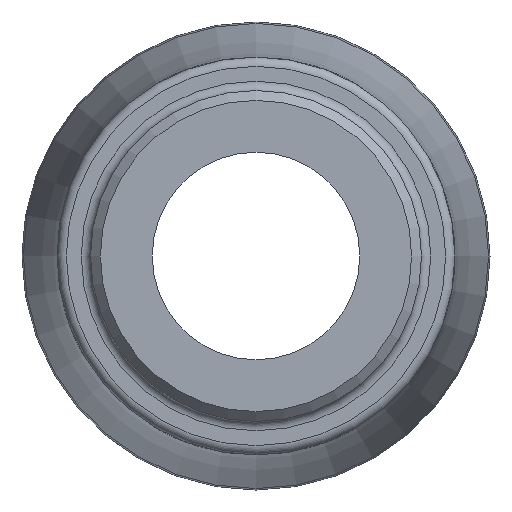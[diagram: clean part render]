
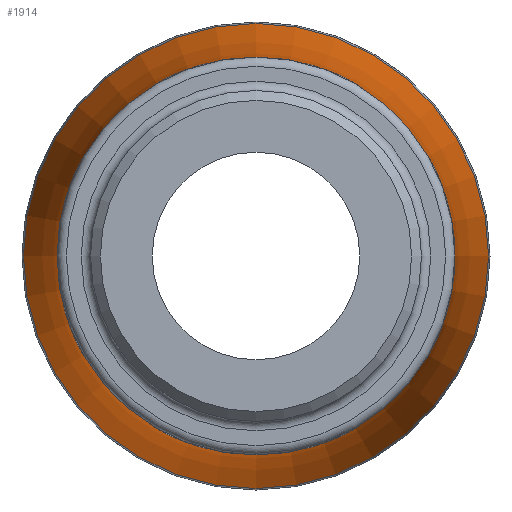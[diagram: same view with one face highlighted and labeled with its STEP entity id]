
A CAD part, left-side view. The second image highlights one B-rep face of the part: STEP entity #1914.
In plain terms, the highlighted toroidal (fillet/blend) face has major radius 131.676 mm and minor radius 111.701 mm.
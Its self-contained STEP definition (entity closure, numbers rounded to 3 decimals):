
#18=TOROIDAL_SURFACE('',#2162,131.676,111.701);
#363=FACE_OUTER_BOUND('',#478,.T.);
#478=EDGE_LOOP('',(#1798,#1799,#1800,#1801,#1802,#1803,#1804));
#668=CIRCLE('',#1943,19.975);
#669=CIRCLE('',#1944,19.975);
#670=CIRCLE('',#1945,19.975);
#737=CIRCLE('',#2043,23.358);
#738=CIRCLE('',#2044,23.358);
#785=CIRCLE('',#2163,111.701);
#791=VERTEX_POINT('',#2731);
#792=VERTEX_POINT('',#2732);
#793=VERTEX_POINT('',#2734);
#876=VERTEX_POINT('',#3236);
#877=VERTEX_POINT('',#3238);
#974=EDGE_CURVE('',#791,#792,#668,.T.);
#975=EDGE_CURVE('',#793,#791,#669,.T.);
#977=EDGE_CURVE('',#792,#793,#670,.T.);
#1084=EDGE_CURVE('',#876,#877,#737,.T.);
#1085=EDGE_CURVE('',#877,#876,#738,.T.);
#1246=EDGE_CURVE('',#792,#876,#785,.T.);
#1798=ORIENTED_EDGE('',*,*,#974,.T.);
#1799=ORIENTED_EDGE('',*,*,#1246,.T.);
#1800=ORIENTED_EDGE('',*,*,#1085,.F.);
#1801=ORIENTED_EDGE('',*,*,#1084,.F.);
#1802=ORIENTED_EDGE('',*,*,#1246,.F.);
#1803=ORIENTED_EDGE('',*,*,#977,.T.);
#1804=ORIENTED_EDGE('',*,*,#975,.T.);
#1914=ADVANCED_FACE('',(#363),#18,.F.);
#1943=AXIS2_PLACEMENT_3D('',#2733,#2183,#2184);
#1944=AXIS2_PLACEMENT_3D('',#2735,#2185,#2186);
#1945=AXIS2_PLACEMENT_3D('',#2737,#2188,#2189);
#2043=AXIS2_PLACEMENT_3D('',#3239,#2408,#2409);
#2044=AXIS2_PLACEMENT_3D('',#3240,#2410,#2411);
#2162=AXIS2_PLACEMENT_3D('',#4204,#2712,#2713);
#2163=AXIS2_PLACEMENT_3D('',#4205,#2714,#2715);
#2183=DIRECTION('center_axis',(1.,0.,0.));
#2184=DIRECTION('ref_axis',(0.,0.,-1.));
#2185=DIRECTION('center_axis',(1.,0.,0.));
#2186=DIRECTION('ref_axis',(0.,0.,-1.));
#2188=DIRECTION('center_axis',(1.,0.,0.));
#2189=DIRECTION('ref_axis',(0.,0.,-1.));
#2408=DIRECTION('center_axis',(1.,0.,0.));
#2409=DIRECTION('ref_axis',(0.,-1.,0.));
#2410=DIRECTION('center_axis',(1.,0.,0.));
#2411=DIRECTION('ref_axis',(0.,-1.,0.));
#2712=DIRECTION('center_axis',(1.,0.,0.));
#2713=DIRECTION('ref_axis',(0.,0.,-1.));
#2714=DIRECTION('center_axis',(0.,-1.,0.));
#2715=DIRECTION('ref_axis',(0.,0.,1.));
#2731=CARTESIAN_POINT('',(56.,19.975,0.));
#2732=CARTESIAN_POINT('',(56.,0.,19.975));
#2733=CARTESIAN_POINT('Origin',(56.,0.,0.));
#2734=CARTESIAN_POINT('',(56.,-19.975,0.));
#2735=CARTESIAN_POINT('Origin',(56.,0.,0.));
#2737=CARTESIAN_POINT('Origin',(56.,0.,0.));
#3236=CARTESIAN_POINT('',(83.281,0.,23.358));
#3238=CARTESIAN_POINT('',(83.281,23.358,0.));
#3239=CARTESIAN_POINT('Origin',(83.281,0.,0.));
#3240=CARTESIAN_POINT('Origin',(83.281,0.,0.));
#4204=CARTESIAN_POINT('Origin',(56.,0.,0.));
#4205=CARTESIAN_POINT('Origin',(56.,0.,131.676));
